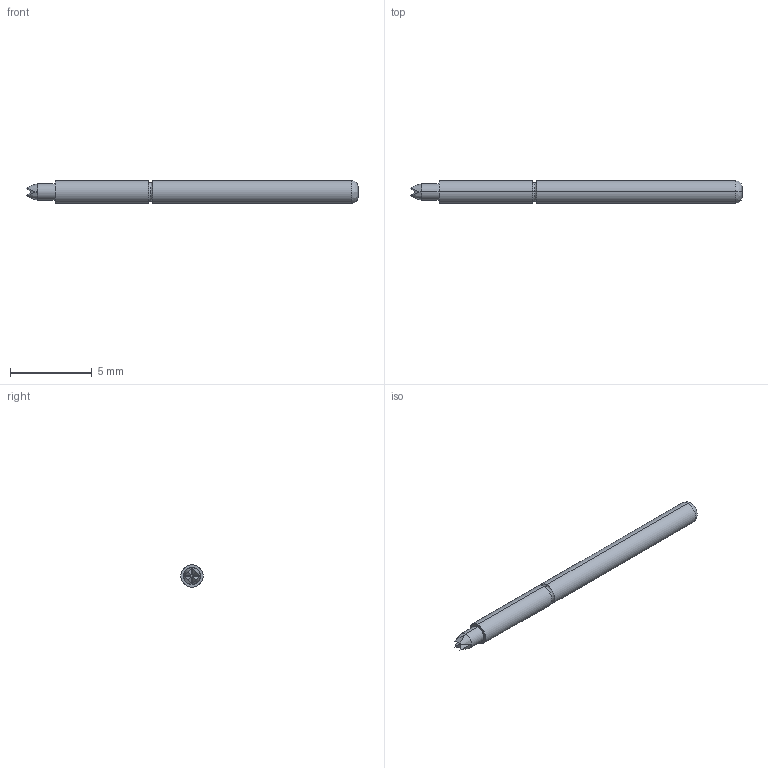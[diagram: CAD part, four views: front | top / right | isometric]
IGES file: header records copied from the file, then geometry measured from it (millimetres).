
Start section: SolidWorks IGES file using analytic representation for surfaces
Global section: file name: O:\PYLON\IGES FILES\P3158\P3158G-2Q1S FULL.IGS; native system: SolidWorks 2015; preprocessor: SolidWorks 2015; author: kgolden; date: 171020.071044; units: inch
Bounding box: 20.32 x 1.37 x 1.37 mm (x, y, z)
Surface area: 92.6 mm2 (no closed solid volume)
Topology: 0 solids, 0 shells, 30 faces, 182 edges, 182 vertices
Faces by surface type: bspline 20, revolution 10
